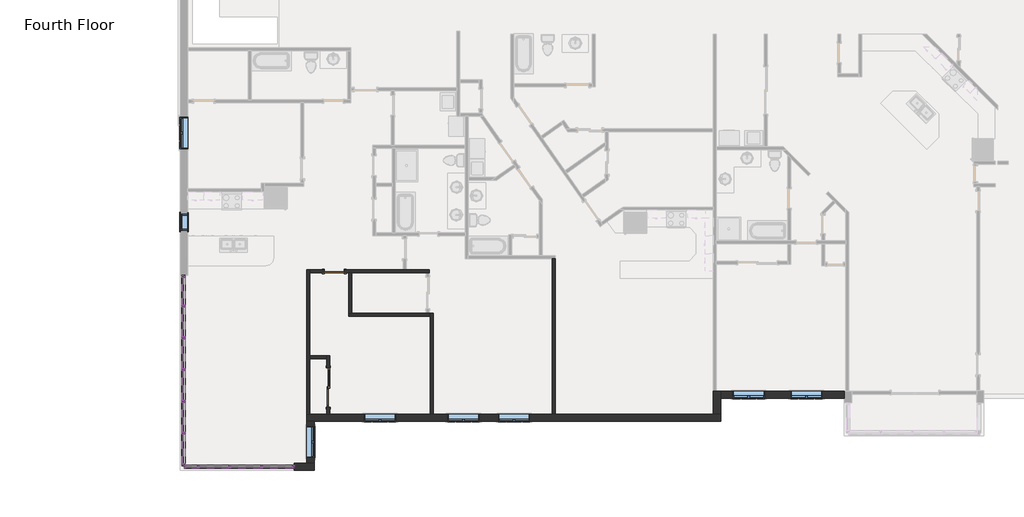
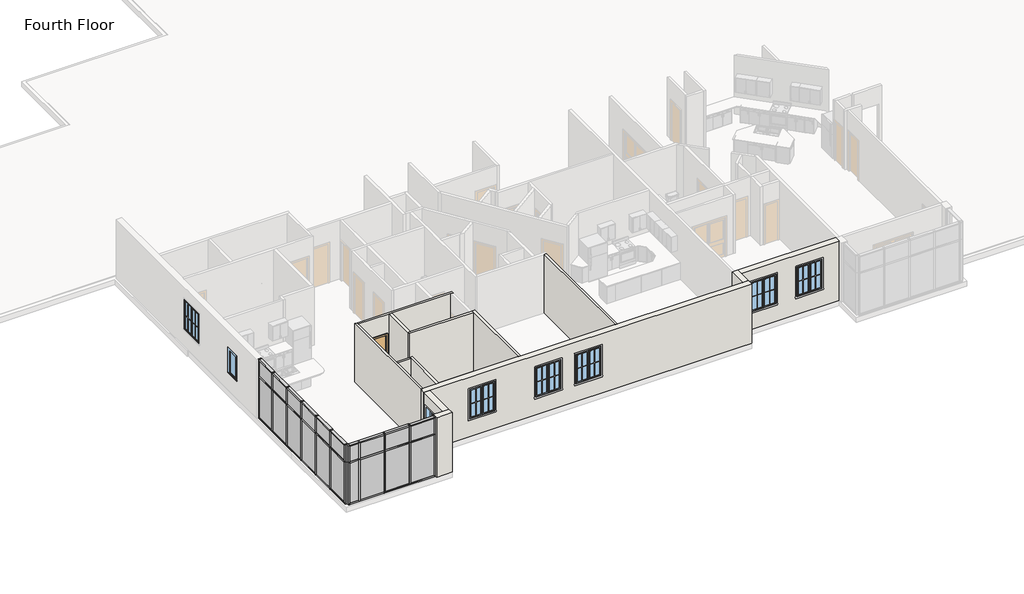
# One storey, part 1 of 17: 54 members, 20 plates, 13 walls, 8 windows, 2 doors.
"""IFC4 building model written with IfcOpenShell, lengths in millimetres."""

from ifc_helpers import new_model, si_unit, frame, origin, place, context, project, spatial, polyline, outline, extrude, faceted_brep, transform, mapped, element, save
from components import door_f2b275c1, door_2e7ec8be, rectangular_mullion_rectangular_mullion_1_c1bf3533, rectangular_mullion_rectangular_mullion_1_fa3625a1, rectangular_mullion_rectangular_mullion_1_a50b3cda, rectangular_mullion_rectangular_mullion_1_5cd4c5ac, rectangular_mullion_rectangular_mullion_1_7cbf0b94, rectangular_mullion_rectangular_mullion_1_1da01dff, rectangular_mullion_rectangular_mullion_1_6186cc23, rectangular_mullion_rectangular_mullion_1_049a2e78, rectangular_mullion_rectangular_mullion_1_fcad50a8, rectangular_mullion_rectangular_mullion_1_aa096312, system_panel_glazed_53e6f9fb, system_panel_glazed_0e039939, system_panel_glazed_cb820e14, system_panel_glazed_5b288161, system_panel_glazed_f20beefc, system_panel_glazed_097fd36c, window_b85827b5, window_33528cc2

model = new_model("IFC4")

# Units and contexts
model_context = context("Model", 3, world=origin())
ifc_project = project(units=[si_unit("LENGTHUNIT", "METRE", prefix="MILLI")], contexts=[model_context])

# Site, building, storey
site = spatial("IfcSite", under=ifc_project)
building = spatial("IfcBuilding", under=site)
storey = spatial("IfcBuildingStorey", under=building, Name="Fourth Floor", Elevation=9144.0)

# Doors
placement = place(None, origin())
door_shape = door_f2b275c1(model_context)
element("IfcDoor", 1, ObjectType="Single-Flush : 30\" x 80\"", at=placement, inside=storey, context=model_context, shape_type="MappedRepresentation", body=[
    mapped(door_shape, transform((12807.779723, -13829.1071807, 9144.0), x_axis=(1.0, 0.0, 0.0), y_axis=(0.0, 1.0, 0.0), z_axis=(0.0, 0.0, 1.0))),
])
door_2_shape = door_2e7ec8be(model_context)
element("IfcDoor", 2, ObjectType="Sliding-Closet : 60\" x 80\"", at=placement, inside=storey, context=model_context, shape_type="MappedRepresentation", body=[
    mapped(door_2_shape, transform((12448.2103704, -18291.1858961, 9144.0), x_axis=(0.0, -1.0, 0.0), y_axis=(1.0, 0.0, 0.0), z_axis=(0.0, 0.0, 1.0))),
])

# Members
rectangular_mullion_rectangular_mullion_1_shape = rectangular_mullion_rectangular_mullion_1_c1bf3533(model_context)
element("IfcMember", 3, ObjectType="Rectangular Mullion : Rectangular Mullion 1", at=placement, inside=storey, context=model_context, shape_type="MappedRepresentation", body=[
    mapped(rectangular_mullion_rectangular_mullion_1_shape, transform((7097.5509633, -21333.0996067, 12192.0), x_axis=(0.0, 0.0, 1.0), y_axis=(0.0, 1.0, 0.0), z_axis=(-1.0, 0.0, 0.0))),
])
rectangular_mullion_rectangular_mullion_1_2_shape = rectangular_mullion_rectangular_mullion_1_fa3625a1(model_context)
element("IfcMember", 4, ObjectType="Rectangular Mullion : Rectangular Mullion 1", at=placement, inside=storey, context=model_context, shape_type="MappedRepresentation", body=[
    mapped(rectangular_mullion_rectangular_mullion_1_2_shape, transform((10056.650963, -21333.0996067, 12192.0), x_axis=(0.0, 0.0, 1.0), y_axis=(0.0, 1.0, 0.0), z_axis=(-1.0, 0.0, 0.0))),
])
element("IfcMember", 5, ObjectType="Rectangular Mullion : Rectangular Mullion 1", at=placement, inside=storey, context=model_context, shape_type="MappedRepresentation", body=[
    mapped(rectangular_mullion_rectangular_mullion_1_2_shape, transform((8837.450963, -21333.0996067, 12192.0), x_axis=(0.0, 0.0, 1.0), y_axis=(0.0, 1.0, 0.0), z_axis=(-1.0, 0.0, 0.0))),
])
element("IfcMember", 6, ObjectType="Rectangular Mullion : Rectangular Mullion 1", at=placement, inside=storey, context=model_context, shape_type="MappedRepresentation", body=[
    mapped(rectangular_mullion_rectangular_mullion_1_2_shape, transform((7618.250963, -21333.0996067, 12192.0), x_axis=(0.0, 0.0, 1.0), y_axis=(0.0, 1.0, 0.0), z_axis=(-1.0, 0.0, 0.0))),
])
element("IfcMember", 7, ObjectType="Rectangular Mullion : Rectangular Mullion 1", at=placement, inside=storey, context=model_context, shape_type="MappedRepresentation", body=[
    mapped(rectangular_mullion_rectangular_mullion_1_2_shape, transform((7015.0009633, -20069.4496064, 12192.0), x_axis=(0.0, 0.0, 1.0), y_axis=(1.0, 0.0, 0.0), z_axis=(0.0, 1.0, 0.0))),
])
element("IfcMember", 8, ObjectType="Rectangular Mullion : Rectangular Mullion 1", at=placement, inside=storey, context=model_context, shape_type="MappedRepresentation", body=[
    mapped(rectangular_mullion_rectangular_mullion_1_2_shape, transform((7015.0009633, -18850.2496064, 12192.0), x_axis=(0.0, 0.0, 1.0), y_axis=(1.0, 0.0, 0.0), z_axis=(0.0, 1.0, 0.0))),
])
element("IfcMember", 9, ObjectType="Rectangular Mullion : Rectangular Mullion 1", at=placement, inside=storey, context=model_context, shape_type="MappedRepresentation", body=[
    mapped(rectangular_mullion_rectangular_mullion_1_2_shape, transform((7015.0009633, -17631.0496064, 12192.0), x_axis=(0.0, 0.0, 1.0), y_axis=(1.0, 0.0, 0.0), z_axis=(0.0, 1.0, 0.0))),
])
element("IfcMember", 10, ObjectType="Rectangular Mullion : Rectangular Mullion 1", at=placement, inside=storey, context=model_context, shape_type="MappedRepresentation", body=[
    mapped(rectangular_mullion_rectangular_mullion_1_2_shape, transform((7015.0009633, -16411.8496064, 12192.0), x_axis=(0.0, 0.0, 1.0), y_axis=(1.0, 0.0, 0.0), z_axis=(0.0, 1.0, 0.0))),
])
element("IfcMember", 11, ObjectType="Rectangular Mullion : Rectangular Mullion 1", at=placement, inside=storey, context=model_context, shape_type="MappedRepresentation", body=[
    mapped(rectangular_mullion_rectangular_mullion_1_2_shape, transform((7015.0009633, -15192.6496064, 12192.0), x_axis=(0.0, 0.0, 1.0), y_axis=(1.0, 0.0, 0.0), z_axis=(0.0, 1.0, 0.0))),
])
element("IfcMember", 12, ObjectType="Rectangular Mullion : Rectangular Mullion 1", at=placement, inside=storey, context=model_context, shape_type="MappedRepresentation", body=[
    mapped(rectangular_mullion_rectangular_mullion_1_2_shape, transform((11212.3509633, -21333.0996067, 9144.0), x_axis=(0.0, 0.0, -1.0), y_axis=(0.0, 1.0, 0.0), z_axis=(1.0, 0.0, 0.0))),
])
element("IfcMember", 13, ObjectType="Rectangular Mullion : Rectangular Mullion 1", at=placement, inside=storey, context=model_context, shape_type="MappedRepresentation", body=[
    mapped(rectangular_mullion_rectangular_mullion_1_2_shape, transform((9993.150963, -21333.0996067, 9144.0), x_axis=(0.0, 0.0, -1.0), y_axis=(0.0, 1.0, 0.0), z_axis=(1.0, 0.0, 0.0))),
])
element("IfcMember", 14, ObjectType="Rectangular Mullion : Rectangular Mullion 1", at=placement, inside=storey, context=model_context, shape_type="MappedRepresentation", body=[
    mapped(rectangular_mullion_rectangular_mullion_1_2_shape, transform((8773.950963, -21333.0996067, 9144.0), x_axis=(0.0, 0.0, -1.0), y_axis=(0.0, 1.0, 0.0), z_axis=(1.0, 0.0, 0.0))),
])
element("IfcMember", 15, ObjectType="Rectangular Mullion : Rectangular Mullion 1", at=placement, inside=storey, context=model_context, shape_type="MappedRepresentation", body=[
    mapped(rectangular_mullion_rectangular_mullion_1_2_shape, transform((7015.0009633, -21225.1496067, 9144.0), x_axis=(0.0, 0.0, -1.0), y_axis=(1.0, 0.0, 0.0), z_axis=(0.0, -1.0, 0.0))),
])
element("IfcMember", 16, ObjectType="Rectangular Mullion : Rectangular Mullion 1", at=placement, inside=storey, context=model_context, shape_type="MappedRepresentation", body=[
    mapped(rectangular_mullion_rectangular_mullion_1_2_shape, transform((7015.0009633, -20005.9496064, 9144.0), x_axis=(0.0, 0.0, -1.0), y_axis=(1.0, 0.0, 0.0), z_axis=(0.0, -1.0, 0.0))),
])
element("IfcMember", 17, ObjectType="Rectangular Mullion : Rectangular Mullion 1", at=placement, inside=storey, context=model_context, shape_type="MappedRepresentation", body=[
    mapped(rectangular_mullion_rectangular_mullion_1_2_shape, transform((7015.0009633, -18786.7496064, 9144.0), x_axis=(0.0, 0.0, -1.0), y_axis=(1.0, 0.0, 0.0), z_axis=(0.0, -1.0, 0.0))),
])
element("IfcMember", 18, ObjectType="Rectangular Mullion : Rectangular Mullion 1", at=placement, inside=storey, context=model_context, shape_type="MappedRepresentation", body=[
    mapped(rectangular_mullion_rectangular_mullion_1_2_shape, transform((7015.0009633, -17567.5496064, 9144.0), x_axis=(0.0, 0.0, -1.0), y_axis=(1.0, 0.0, 0.0), z_axis=(0.0, -1.0, 0.0))),
])
element("IfcMember", 19, ObjectType="Rectangular Mullion : Rectangular Mullion 1", at=placement, inside=storey, context=model_context, shape_type="MappedRepresentation", body=[
    mapped(rectangular_mullion_rectangular_mullion_1_2_shape, transform((7015.0009633, -16348.3496064, 9144.0), x_axis=(0.0, 0.0, -1.0), y_axis=(1.0, 0.0, 0.0), z_axis=(0.0, -1.0, 0.0))),
])
element("IfcMember", 20, ObjectType="Rectangular Mullion : Rectangular Mullion 1", at=placement, inside=storey, context=model_context, shape_type="MappedRepresentation", body=[
    mapped(rectangular_mullion_rectangular_mullion_1_shape, transform((7554.750963, -21333.0996067, 9144.0), x_axis=(0.0, 0.0, -1.0), y_axis=(0.0, 1.0, 0.0), z_axis=(1.0, 0.0, 0.0))),
])
rectangular_mullion_rectangular_mullion_1_3_shape = rectangular_mullion_rectangular_mullion_1_a50b3cda(model_context)
element("IfcMember", 21, ObjectType="Rectangular Mullion : Rectangular Mullion 1", at=placement, inside=storey, context=model_context, shape_type="MappedRepresentation", body=[
    mapped(rectangular_mullion_rectangular_mullion_1_3_shape, transform((7034.0509633, -21333.0996067, 9144.0), x_axis=(-1.0, 0.0, 0.0), y_axis=(0.0, 1.0, 0.0), z_axis=(0.0, 0.0, -1.0))),
])
element("IfcMember", 22, ObjectType="Rectangular Mullion : Rectangular Mullion 1", at=placement, inside=storey, context=model_context, shape_type="MappedRepresentation", body=[
    mapped(rectangular_mullion_rectangular_mullion_1_3_shape, transform((7015.0009633, -13981.3871067, 9144.0), x_axis=(0.0, 1.0, 0.0), y_axis=(1.0, 0.0, 0.0), z_axis=(0.0, 0.0, -1.0))),
])
rectangular_mullion_rectangular_mullion_1_4_shape = rectangular_mullion_rectangular_mullion_1_5cd4c5ac(model_context)
element("IfcMember", 23, ObjectType="Rectangular Mullion : Rectangular Mullion 1", at=placement, inside=storey, context=model_context, shape_type="MappedRepresentation", body=[
    mapped(rectangular_mullion_rectangular_mullion_1_4_shape, transform((7034.0509633, -21333.0996067, 11309.35), x_axis=(-1.0, 0.0, 0.0), y_axis=(0.0, 1.0, 0.0), z_axis=(0.0, 0.0, -1.0))),
])
element("IfcMember", 24, ObjectType="Rectangular Mullion : Rectangular Mullion 1", at=placement, inside=storey, context=model_context, shape_type="MappedRepresentation", body=[
    mapped(rectangular_mullion_rectangular_mullion_1_4_shape, transform((7015.0009633, -13981.3871067, 11309.35), x_axis=(0.0, 1.0, 0.0), y_axis=(1.0, 0.0, 0.0), z_axis=(0.0, 0.0, -1.0))),
])
element("IfcMember", 25, ObjectType="Rectangular Mullion : Rectangular Mullion 1", at=placement, inside=storey, context=model_context, shape_type="MappedRepresentation", body=[
    mapped(rectangular_mullion_rectangular_mullion_1_4_shape, transform((11275.8509633, -21333.0996067, 12192.0), x_axis=(1.0, 0.0, 0.0), y_axis=(0.0, 1.0, 0.0), z_axis=(0.0, 0.0, 1.0))),
])
element("IfcMember", 26, ObjectType="Rectangular Mullion : Rectangular Mullion 1", at=placement, inside=storey, context=model_context, shape_type="MappedRepresentation", body=[
    mapped(rectangular_mullion_rectangular_mullion_1_4_shape, transform((7015.0009633, -21288.6496067, 12192.0), x_axis=(0.0, -1.0, 0.0), y_axis=(1.0, 0.0, 0.0), z_axis=(0.0, 0.0, 1.0))),
])
element("IfcMember", 27, ObjectType="Rectangular Mullion : Rectangular Mullion 1", at=placement, inside=storey, context=model_context, shape_type="MappedRepresentation", body=[
    mapped(rectangular_mullion_rectangular_mullion_1_3_shape, transform((11275.8509633, -21333.0996067, 11309.35), x_axis=(1.0, 0.0, 0.0), y_axis=(0.0, 1.0, 0.0), z_axis=(0.0, 0.0, 1.0))),
])
element("IfcMember", 28, ObjectType="Rectangular Mullion : Rectangular Mullion 1", at=placement, inside=storey, context=model_context, shape_type="MappedRepresentation", body=[
    mapped(rectangular_mullion_rectangular_mullion_1_3_shape, transform((7015.0009633, -21288.6496067, 11309.35), x_axis=(0.0, -1.0, 0.0), y_axis=(1.0, 0.0, 0.0), z_axis=(0.0, 0.0, 1.0))),
])
rectangular_mullion_rectangular_mullion_1_5_shape = rectangular_mullion_rectangular_mullion_1_7cbf0b94(model_context)
element("IfcMember", 29, ObjectType="Rectangular Mullion : Rectangular Mullion 1", at=placement, inside=storey, context=model_context, shape_type="MappedRepresentation", body=[
    mapped(rectangular_mullion_rectangular_mullion_1_5_shape, transform((10056.650963, -21333.0996067, 11309.35), x_axis=(0.0, 0.0, 1.0), y_axis=(0.0, 1.0, 0.0), z_axis=(-1.0, 0.0, 0.0))),
])
element("IfcMember", 30, ObjectType="Rectangular Mullion : Rectangular Mullion 1", at=placement, inside=storey, context=model_context, shape_type="MappedRepresentation", body=[
    mapped(rectangular_mullion_rectangular_mullion_1_5_shape, transform((8837.450963, -21333.0996067, 11309.35), x_axis=(0.0, 0.0, 1.0), y_axis=(0.0, 1.0, 0.0), z_axis=(-1.0, 0.0, 0.0))),
])
element("IfcMember", 31, ObjectType="Rectangular Mullion : Rectangular Mullion 1", at=placement, inside=storey, context=model_context, shape_type="MappedRepresentation", body=[
    mapped(rectangular_mullion_rectangular_mullion_1_5_shape, transform((7618.250963, -21333.0996067, 11309.35), x_axis=(0.0, 0.0, 1.0), y_axis=(0.0, 1.0, 0.0), z_axis=(-1.0, 0.0, 0.0))),
])
element("IfcMember", 32, ObjectType="Rectangular Mullion : Rectangular Mullion 1", at=placement, inside=storey, context=model_context, shape_type="MappedRepresentation", body=[
    mapped(rectangular_mullion_rectangular_mullion_1_5_shape, transform((7015.0009633, -20069.4496064, 11309.35), x_axis=(0.0, 0.0, 1.0), y_axis=(1.0, 0.0, 0.0), z_axis=(0.0, 1.0, 0.0))),
])
element("IfcMember", 33, ObjectType="Rectangular Mullion : Rectangular Mullion 1", at=placement, inside=storey, context=model_context, shape_type="MappedRepresentation", body=[
    mapped(rectangular_mullion_rectangular_mullion_1_5_shape, transform((7015.0009633, -18850.2496064, 11309.35), x_axis=(0.0, 0.0, 1.0), y_axis=(1.0, 0.0, 0.0), z_axis=(0.0, 1.0, 0.0))),
])
element("IfcMember", 34, ObjectType="Rectangular Mullion : Rectangular Mullion 1", at=placement, inside=storey, context=model_context, shape_type="MappedRepresentation", body=[
    mapped(rectangular_mullion_rectangular_mullion_1_5_shape, transform((7015.0009633, -17631.0496064, 11309.35), x_axis=(0.0, 0.0, 1.0), y_axis=(1.0, 0.0, 0.0), z_axis=(0.0, 1.0, 0.0))),
])
element("IfcMember", 35, ObjectType="Rectangular Mullion : Rectangular Mullion 1", at=placement, inside=storey, context=model_context, shape_type="MappedRepresentation", body=[
    mapped(rectangular_mullion_rectangular_mullion_1_5_shape, transform((7015.0009633, -16411.8496064, 11309.35), x_axis=(0.0, 0.0, 1.0), y_axis=(1.0, 0.0, 0.0), z_axis=(0.0, 1.0, 0.0))),
])
element("IfcMember", 36, ObjectType="Rectangular Mullion : Rectangular Mullion 1", at=placement, inside=storey, context=model_context, shape_type="MappedRepresentation", body=[
    mapped(rectangular_mullion_rectangular_mullion_1_5_shape, transform((7015.0009633, -15192.6496064, 11309.35), x_axis=(0.0, 0.0, 1.0), y_axis=(1.0, 0.0, 0.0), z_axis=(0.0, 1.0, 0.0))),
])
rectangular_mullion_rectangular_mullion_1_6_shape = rectangular_mullion_rectangular_mullion_1_1da01dff(model_context)
element("IfcMember", 37, ObjectType="Rectangular Mullion : Rectangular Mullion 1", at=placement, inside=storey, context=model_context, shape_type="MappedRepresentation", body=[
    mapped(rectangular_mullion_rectangular_mullion_1_6_shape, transform((7097.5509633, -21333.0996067, 11309.35), x_axis=(0.0, 0.0, 1.0), y_axis=(0.0, 1.0, 0.0), z_axis=(-1.0, 0.0, 0.0))),
])
rectangular_mullion_rectangular_mullion_1_7_shape = rectangular_mullion_rectangular_mullion_1_6186cc23(model_context)
element("IfcMember", 38, ObjectType="Rectangular Mullion : Rectangular Mullion 1", at=placement, inside=storey, context=model_context, shape_type="MappedRepresentation", body=[
    mapped(rectangular_mullion_rectangular_mullion_1_7_shape, transform((10024.900963, -21333.0996067, 9144.0), x_axis=(-1.0, 0.0, 0.0), y_axis=(0.0, 1.0, 0.0), z_axis=(0.0, 0.0, -1.0))),
])
element("IfcMember", 39, ObjectType="Rectangular Mullion : Rectangular Mullion 1", at=placement, inside=storey, context=model_context, shape_type="MappedRepresentation", body=[
    mapped(rectangular_mullion_rectangular_mullion_1_7_shape, transform((8805.700963, -21333.0996067, 9144.0), x_axis=(-1.0, 0.0, 0.0), y_axis=(0.0, 1.0, 0.0), z_axis=(0.0, 0.0, -1.0))),
])
element("IfcMember", 40, ObjectType="Rectangular Mullion : Rectangular Mullion 1", at=placement, inside=storey, context=model_context, shape_type="MappedRepresentation", body=[
    mapped(rectangular_mullion_rectangular_mullion_1_7_shape, transform((7586.500963, -21333.0996067, 9144.0), x_axis=(-1.0, 0.0, 0.0), y_axis=(0.0, 1.0, 0.0), z_axis=(0.0, 0.0, -1.0))),
])
element("IfcMember", 41, ObjectType="Rectangular Mullion : Rectangular Mullion 1", at=placement, inside=storey, context=model_context, shape_type="MappedRepresentation", body=[
    mapped(rectangular_mullion_rectangular_mullion_1_7_shape, transform((7015.0009633, -20037.6996064, 9144.0), x_axis=(0.0, 1.0, 0.0), y_axis=(1.0, 0.0, 0.0), z_axis=(0.0, 0.0, -1.0))),
])
element("IfcMember", 42, ObjectType="Rectangular Mullion : Rectangular Mullion 1", at=placement, inside=storey, context=model_context, shape_type="MappedRepresentation", body=[
    mapped(rectangular_mullion_rectangular_mullion_1_7_shape, transform((7015.0009633, -18818.4996064, 9144.0), x_axis=(0.0, 1.0, 0.0), y_axis=(1.0, 0.0, 0.0), z_axis=(0.0, 0.0, -1.0))),
])
element("IfcMember", 43, ObjectType="Rectangular Mullion : Rectangular Mullion 1", at=placement, inside=storey, context=model_context, shape_type="MappedRepresentation", body=[
    mapped(rectangular_mullion_rectangular_mullion_1_7_shape, transform((7015.0009633, -17599.2996064, 9144.0), x_axis=(0.0, 1.0, 0.0), y_axis=(1.0, 0.0, 0.0), z_axis=(0.0, 0.0, -1.0))),
])
element("IfcMember", 44, ObjectType="Rectangular Mullion : Rectangular Mullion 1", at=placement, inside=storey, context=model_context, shape_type="MappedRepresentation", body=[
    mapped(rectangular_mullion_rectangular_mullion_1_7_shape, transform((7015.0009633, -16380.0996064, 9144.0), x_axis=(0.0, 1.0, 0.0), y_axis=(1.0, 0.0, 0.0), z_axis=(0.0, 0.0, -1.0))),
])
element("IfcMember", 45, ObjectType="Rectangular Mullion : Rectangular Mullion 1", at=placement, inside=storey, context=model_context, shape_type="MappedRepresentation", body=[
    mapped(rectangular_mullion_rectangular_mullion_1_7_shape, transform((7015.0009633, -15160.8996064, 9144.0), x_axis=(0.0, 1.0, 0.0), y_axis=(1.0, 0.0, 0.0), z_axis=(0.0, 0.0, -1.0))),
])
rectangular_mullion_rectangular_mullion_1_8_shape = rectangular_mullion_rectangular_mullion_1_049a2e78(model_context)
element("IfcMember", 46, ObjectType="Rectangular Mullion : Rectangular Mullion 1", at=placement, inside=storey, context=model_context, shape_type="MappedRepresentation", body=[
    mapped(rectangular_mullion_rectangular_mullion_1_8_shape, transform((10024.900963, -21333.0996067, 11309.35), x_axis=(-1.0, 0.0, 0.0), y_axis=(0.0, 1.0, 0.0), z_axis=(0.0, 0.0, -1.0))),
])
element("IfcMember", 47, ObjectType="Rectangular Mullion : Rectangular Mullion 1", at=placement, inside=storey, context=model_context, shape_type="MappedRepresentation", body=[
    mapped(rectangular_mullion_rectangular_mullion_1_8_shape, transform((8805.700963, -21333.0996067, 11309.35), x_axis=(-1.0, 0.0, 0.0), y_axis=(0.0, 1.0, 0.0), z_axis=(0.0, 0.0, -1.0))),
])
element("IfcMember", 48, ObjectType="Rectangular Mullion : Rectangular Mullion 1", at=placement, inside=storey, context=model_context, shape_type="MappedRepresentation", body=[
    mapped(rectangular_mullion_rectangular_mullion_1_8_shape, transform((7586.500963, -21333.0996067, 11309.35), x_axis=(-1.0, 0.0, 0.0), y_axis=(0.0, 1.0, 0.0), z_axis=(0.0, 0.0, -1.0))),
])
element("IfcMember", 49, ObjectType="Rectangular Mullion : Rectangular Mullion 1", at=placement, inside=storey, context=model_context, shape_type="MappedRepresentation", body=[
    mapped(rectangular_mullion_rectangular_mullion_1_8_shape, transform((7015.0009633, -20037.6996064, 11309.35), x_axis=(0.0, 1.0, 0.0), y_axis=(1.0, 0.0, 0.0), z_axis=(0.0, 0.0, -1.0))),
])
element("IfcMember", 50, ObjectType="Rectangular Mullion : Rectangular Mullion 1", at=placement, inside=storey, context=model_context, shape_type="MappedRepresentation", body=[
    mapped(rectangular_mullion_rectangular_mullion_1_8_shape, transform((7015.0009633, -18818.4996064, 11309.35), x_axis=(0.0, 1.0, 0.0), y_axis=(1.0, 0.0, 0.0), z_axis=(0.0, 0.0, -1.0))),
])
element("IfcMember", 51, ObjectType="Rectangular Mullion : Rectangular Mullion 1", at=placement, inside=storey, context=model_context, shape_type="MappedRepresentation", body=[
    mapped(rectangular_mullion_rectangular_mullion_1_8_shape, transform((7015.0009633, -17599.2996064, 11309.35), x_axis=(0.0, 1.0, 0.0), y_axis=(1.0, 0.0, 0.0), z_axis=(0.0, 0.0, -1.0))),
])
element("IfcMember", 52, ObjectType="Rectangular Mullion : Rectangular Mullion 1", at=placement, inside=storey, context=model_context, shape_type="MappedRepresentation", body=[
    mapped(rectangular_mullion_rectangular_mullion_1_8_shape, transform((7015.0009633, -16380.0996064, 11309.35), x_axis=(0.0, 1.0, 0.0), y_axis=(1.0, 0.0, 0.0), z_axis=(0.0, 0.0, -1.0))),
])
element("IfcMember", 53, ObjectType="Rectangular Mullion : Rectangular Mullion 1", at=placement, inside=storey, context=model_context, shape_type="MappedRepresentation", body=[
    mapped(rectangular_mullion_rectangular_mullion_1_8_shape, transform((7015.0009633, -15160.8996064, 11309.35), x_axis=(0.0, 1.0, 0.0), y_axis=(1.0, 0.0, 0.0), z_axis=(0.0, 0.0, -1.0))),
])
rectangular_mullion_rectangular_mullion_1_9_shape = rectangular_mullion_rectangular_mullion_1_fcad50a8(model_context)
element("IfcMember", 54, ObjectType="Rectangular Mullion : Rectangular Mullion 1", at=placement, inside=storey, context=model_context, shape_type="MappedRepresentation", body=[
    mapped(rectangular_mullion_rectangular_mullion_1_9_shape, transform((7015.0009633, -14044.8871067, 12192.0), x_axis=(0.0, 0.0, 1.0), y_axis=(1.0, 0.0, 0.0), z_axis=(0.0, 1.0, 0.0))),
])
element("IfcMember", 55, ObjectType="Rectangular Mullion : Rectangular Mullion 1", at=placement, inside=storey, context=model_context, shape_type="MappedRepresentation", body=[
    mapped(rectangular_mullion_rectangular_mullion_1_9_shape, transform((7015.0009633, -15129.1496064, 9144.0), x_axis=(0.0, 0.0, -1.0), y_axis=(1.0, 0.0, 0.0), z_axis=(0.0, -1.0, 0.0))),
])
rectangular_mullion_rectangular_mullion_1_10_shape = rectangular_mullion_rectangular_mullion_1_aa096312(model_context)
element("IfcMember", 56, ObjectType="Rectangular Mullion : Rectangular Mullion 1", at=placement, inside=storey, context=model_context, shape_type="MappedRepresentation", body=[
    mapped(rectangular_mullion_rectangular_mullion_1_10_shape, transform((7015.0009633, -14044.8871067, 11309.35), x_axis=(0.0, 0.0, 1.0), y_axis=(1.0, 0.0, 0.0), z_axis=(0.0, 1.0, 0.0))),
])

# Plates
system_panel_glazed_shape = system_panel_glazed_53e6f9fb(model_context)
element("IfcPlate", 57, ObjectType="System Panel : Glazed", at=placement, inside=storey, context=model_context, shape_type="MappedRepresentation", body=[
    mapped(system_panel_glazed_shape, transform((10634.5009632, -21333.0996067, 9207.5), x_axis=(-1.0, 0.0, 0.0), y_axis=(0.0, -1.0, 0.0), z_axis=(0.0, 0.0, 1.0))),
])
element("IfcPlate", 58, ObjectType="System Panel : Glazed", at=placement, inside=storey, context=model_context, shape_type="MappedRepresentation", body=[
    mapped(system_panel_glazed_shape, transform((7015.0009633, -20647.2996066, 9207.5), x_axis=(0.0, 1.0, 0.0), y_axis=(-1.0, 0.0, 0.0), z_axis=(0.0, 0.0, 1.0))),
])
element("IfcPlate", 59, ObjectType="System Panel : Glazed", at=placement, inside=storey, context=model_context, shape_type="MappedRepresentation", body=[
    mapped(system_panel_glazed_shape, transform((9415.300963, -21333.0996067, 9207.5), x_axis=(-1.0, 0.0, 0.0), y_axis=(0.0, -1.0, 0.0), z_axis=(0.0, 0.0, 1.0))),
])
element("IfcPlate", 60, ObjectType="System Panel : Glazed", at=placement, inside=storey, context=model_context, shape_type="MappedRepresentation", body=[
    mapped(system_panel_glazed_shape, transform((8196.100963, -21333.0996067, 9207.5), x_axis=(-1.0, 0.0, 0.0), y_axis=(0.0, -1.0, 0.0), z_axis=(0.0, 0.0, 1.0))),
])
element("IfcPlate", 61, ObjectType="System Panel : Glazed", at=placement, inside=storey, context=model_context, shape_type="MappedRepresentation", body=[
    mapped(system_panel_glazed_shape, transform((7015.0009633, -19428.0996064, 9207.5), x_axis=(0.0, 1.0, 0.0), y_axis=(-1.0, 0.0, 0.0), z_axis=(0.0, 0.0, 1.0))),
])
element("IfcPlate", 62, ObjectType="System Panel : Glazed", at=placement, inside=storey, context=model_context, shape_type="MappedRepresentation", body=[
    mapped(system_panel_glazed_shape, transform((7015.0009633, -18208.8996064, 9207.5), x_axis=(0.0, 1.0, 0.0), y_axis=(-1.0, 0.0, 0.0), z_axis=(0.0, 0.0, 1.0))),
])
element("IfcPlate", 63, ObjectType="System Panel : Glazed", at=placement, inside=storey, context=model_context, shape_type="MappedRepresentation", body=[
    mapped(system_panel_glazed_shape, transform((7015.0009633, -16989.6996064, 9207.5), x_axis=(0.0, 1.0, 0.0), y_axis=(-1.0, 0.0, 0.0), z_axis=(0.0, 0.0, 1.0))),
])
element("IfcPlate", 64, ObjectType="System Panel : Glazed", at=placement, inside=storey, context=model_context, shape_type="MappedRepresentation", body=[
    mapped(system_panel_glazed_shape, transform((7015.0009633, -15770.4996064, 9207.5), x_axis=(0.0, 1.0, 0.0), y_axis=(-1.0, 0.0, 0.0), z_axis=(0.0, 0.0, 1.0))),
])
system_panel_glazed_2_shape = system_panel_glazed_0e039939(model_context)
element("IfcPlate", 65, ObjectType="System Panel : Glazed", at=placement, inside=storey, context=model_context, shape_type="MappedRepresentation", body=[
    mapped(system_panel_glazed_2_shape, transform((7326.1509632, -21333.0996067, 9207.5), x_axis=(-1.0, 0.0, 0.0), y_axis=(0.0, -1.0, 0.0), z_axis=(0.0, 0.0, 1.0))),
])
system_panel_glazed_3_shape = system_panel_glazed_cb820e14(model_context)
element("IfcPlate", 66, ObjectType="System Panel : Glazed", at=placement, inside=storey, context=model_context, shape_type="MappedRepresentation", body=[
    mapped(system_panel_glazed_3_shape, transform((10634.5009632, -21333.0996067, 11341.1), x_axis=(-1.0, 0.0, 0.0), y_axis=(0.0, -1.0, 0.0), z_axis=(0.0, 0.0, 1.0))),
])
element("IfcPlate", 67, ObjectType="System Panel : Glazed", at=placement, inside=storey, context=model_context, shape_type="MappedRepresentation", body=[
    mapped(system_panel_glazed_3_shape, transform((9415.300963, -21333.0996067, 11341.1), x_axis=(-1.0, 0.0, 0.0), y_axis=(0.0, -1.0, 0.0), z_axis=(0.0, 0.0, 1.0))),
])
element("IfcPlate", 68, ObjectType="System Panel : Glazed", at=placement, inside=storey, context=model_context, shape_type="MappedRepresentation", body=[
    mapped(system_panel_glazed_3_shape, transform((8196.100963, -21333.0996067, 11341.1), x_axis=(-1.0, 0.0, 0.0), y_axis=(0.0, -1.0, 0.0), z_axis=(0.0, 0.0, 1.0))),
])
element("IfcPlate", 69, ObjectType="System Panel : Glazed", at=placement, inside=storey, context=model_context, shape_type="MappedRepresentation", body=[
    mapped(system_panel_glazed_3_shape, transform((7015.0009633, -20647.2996066, 11341.1), x_axis=(0.0, 1.0, 0.0), y_axis=(-1.0, 0.0, 0.0), z_axis=(0.0, 0.0, 1.0))),
])
element("IfcPlate", 70, ObjectType="System Panel : Glazed", at=placement, inside=storey, context=model_context, shape_type="MappedRepresentation", body=[
    mapped(system_panel_glazed_3_shape, transform((7015.0009633, -19428.0996064, 11341.1), x_axis=(0.0, 1.0, 0.0), y_axis=(-1.0, 0.0, 0.0), z_axis=(0.0, 0.0, 1.0))),
])
element("IfcPlate", 71, ObjectType="System Panel : Glazed", at=placement, inside=storey, context=model_context, shape_type="MappedRepresentation", body=[
    mapped(system_panel_glazed_3_shape, transform((7015.0009633, -18208.8996064, 11341.1), x_axis=(0.0, 1.0, 0.0), y_axis=(-1.0, 0.0, 0.0), z_axis=(0.0, 0.0, 1.0))),
])
element("IfcPlate", 72, ObjectType="System Panel : Glazed", at=placement, inside=storey, context=model_context, shape_type="MappedRepresentation", body=[
    mapped(system_panel_glazed_3_shape, transform((7015.0009633, -16989.6996064, 11341.1), x_axis=(0.0, 1.0, 0.0), y_axis=(-1.0, 0.0, 0.0), z_axis=(0.0, 0.0, 1.0))),
])
element("IfcPlate", 73, ObjectType="System Panel : Glazed", at=placement, inside=storey, context=model_context, shape_type="MappedRepresentation", body=[
    mapped(system_panel_glazed_3_shape, transform((7015.0009633, -15770.4996064, 11341.1), x_axis=(0.0, 1.0, 0.0), y_axis=(-1.0, 0.0, 0.0), z_axis=(0.0, 0.0, 1.0))),
])
system_panel_glazed_4_shape = system_panel_glazed_5b288161(model_context)
element("IfcPlate", 74, ObjectType="System Panel : Glazed", at=placement, inside=storey, context=model_context, shape_type="MappedRepresentation", body=[
    mapped(system_panel_glazed_4_shape, transform((7326.1509632, -21333.0996067, 11341.1), x_axis=(-1.0, 0.0, 0.0), y_axis=(0.0, -1.0, 0.0), z_axis=(0.0, 0.0, 1.0))),
])
system_panel_glazed_5_shape = system_panel_glazed_f20beefc(model_context)
element("IfcPlate", 75, ObjectType="System Panel : Glazed", at=placement, inside=storey, context=model_context, shape_type="MappedRepresentation", body=[
    mapped(system_panel_glazed_5_shape, transform((7015.0009633, -14587.0183566, 9207.5), x_axis=(0.0, 1.0, 0.0), y_axis=(-1.0, 0.0, 0.0), z_axis=(0.0, 0.0, 1.0))),
])
system_panel_glazed_6_shape = system_panel_glazed_097fd36c(model_context)
element("IfcPlate", 76, ObjectType="System Panel : Glazed", at=placement, inside=storey, context=model_context, shape_type="MappedRepresentation", body=[
    mapped(system_panel_glazed_6_shape, transform((7015.0009633, -14587.0183566, 11341.1), x_axis=(0.0, 1.0, 0.0), y_axis=(-1.0, 0.0, 0.0), z_axis=(0.0, 0.0, 1.0))),
])

# Walls
element("IfcWall", 77, ObjectType="Exterior - Brick on Wood Stud", at=placement, inside=storey, context=model_context, shape_type="Brep", body=[
    faceted_brep([(12033.0884633, -21191.8121067, 9144.0), (11750.5134633, -21191.8121067, 9144.0), (11275.8509633, -21191.8121067, 9144.0), (11275.8509633, -21191.8121067, 12192.0), (11750.5134633, -21191.8121067, 12192.0), (12033.0884633, -21191.8121067, 12192.0), (12033.0884633, -21474.3871067, 9144.0), (12033.0884633, -21474.3871067, 12192.0), (11275.8509633, -21474.3871067, 12192.0), (11275.8509633, -21474.3871067, 9144.0)], [[[0, 1, 2, 3, 4, 5]], [[6, 7, 8, 9]], [[2, 1, 0, 6, 9]], [[3, 2, 9, 8]], [[5, 4, 3, 8, 7]], [[0, 5, 7, 6]]]),
])
element("IfcWall", 78, ObjectType="Exterior - Brick on Wood Stud", at=placement, inside=storey, context=model_context, shape_type="Brep", body=[
    faceted_brep([(27656.3115862, -19313.2865506, 9144.0), (27373.7365862, -19313.2865506, 9144.0), (21299.9615862, -19313.2865506, 9144.0), (21185.6615862, -19313.2865506, 9144.0), (16611.410372, -19313.2865506, 9144.0), (16497.110372, -19313.2865506, 9144.0), (12632.3603704, -19313.2865506, 9144.0), (12518.0603704, -19313.2865506, 9144.0), (11864.8134633, -19313.2865506, 9144.0), (11750.5134633, -19313.2865506, 9144.0), (11750.5134633, -19313.2865506, 12192.0), (11864.8134633, -19313.2865506, 12192.0), (12518.0603704, -19313.2865506, 12192.0), (12632.3603704, -19313.2865506, 12192.0), (16497.110372, -19313.2865506, 12192.0), (16611.410372, -19313.2865506, 12192.0), (21185.6615862, -19313.2865506, 12192.0), (21299.9615862, -19313.2865506, 12192.0), (27373.7365862, -19313.2865506, 12192.0), (27656.3115862, -19313.2865506, 12192.0), (19109.2115862, -19313.2865506, 11582.4), (19109.2115862, -19313.2865506, 10058.4), (20328.4115862, -19313.2865506, 10058.4), (20328.4115862, -19313.2865506, 11582.4), (13955.1353712, -19313.2865506, 11582.4), (13955.1353712, -19313.2865506, 10058.4), (15174.3353712, -19313.2865506, 10058.4), (15174.3353712, -19313.2865506, 11582.4), (17163.860372, -19313.2865506, 11582.4), (17163.860372, -19313.2865506, 10058.4), (18383.060372, -19313.2865506, 10058.4), (18383.060372, -19313.2865506, 11582.4), (27656.3115862, -19595.8615506, 9144.0), (27656.3115862, -19595.8615506, 12192.0), (12033.0884633, -19595.8615506, 12192.0), (11750.5134633, -19595.8615506, 12192.0), (11750.5134633, -19595.8615506, 9144.0), (12033.0884633, -19595.8615506, 9144.0), (19109.2115862, -19595.8615506, 11582.4), (20328.4115862, -19595.8615506, 11582.4), (20328.4115862, -19595.8615506, 10058.4), (19109.2115862, -19595.8615506, 10058.4), (13955.1353712, -19595.8615506, 11582.4), (15174.3353712, -19595.8615506, 11582.4), (15174.3353712, -19595.8615506, 10058.4), (13955.1353712, -19595.8615506, 10058.4), (17163.860372, -19595.8615506, 11582.4), (18383.060372, -19595.8615506, 11582.4), (18383.060372, -19595.8615506, 10058.4), (17163.860372, -19595.8615506, 10058.4)], [[[0, 1, 2, 3, 4, 5, 6, 7, 8, 9, 10, 11, 12, 13, 14, 15, 16, 17, 18, 19], [20, 21, 22, 23], [24, 25, 26, 27], [28, 29, 30, 31]], [[32, 33, 34, 35, 36, 37], [38, 39, 40, 41], [42, 43, 44, 45], [46, 47, 48, 49]], [[21, 20, 38, 41]], [[22, 21, 41, 40]], [[23, 22, 40, 39]], [[20, 23, 39, 38]], [[25, 24, 42, 45]], [[26, 25, 45, 44]], [[27, 26, 44, 43]], [[24, 27, 43, 42]], [[29, 28, 46, 49]], [[30, 29, 49, 48]], [[31, 30, 48, 47]], [[28, 31, 47, 46]], [[9, 8, 7, 6, 5, 4, 3, 2, 1, 0, 32, 37, 36]], [[19, 18, 17, 16, 15, 14, 13, 12, 11, 10, 35, 34, 33]], [[0, 19, 33, 32]], [[10, 9, 36, 35]]]),
])
element("IfcWall", 79, ObjectType="Exterior - Brick on Wood Stud", at=placement, inside=storey, context=model_context, shape_type="Brep", body=[
    faceted_brep([(27656.3115862, -19313.2865506, 9144.0), (27656.3115862, -18708.8441587, 9144.0), (27656.3115862, -18426.2691587, 9144.0), (27656.3115862, -18426.2691587, 12192.0), (27656.3115862, -18708.8441587, 12192.0), (27656.3115862, -19313.2865506, 12192.0), (27373.7365862, -19313.2865506, 9144.0), (27373.7365862, -19313.2865506, 12192.0), (27373.7365862, -18426.2691587, 12192.0), (27373.7365862, -18426.2691587, 9144.0), (27488.0365862, -18426.2691587, 9144.0), (27488.0365862, -18426.2691587, 12192.0)], [[[0, 1, 2, 3, 4, 5]], [[6, 7, 8, 9]], [[2, 1, 0, 6, 9, 10]], [[5, 4, 3, 11, 8, 7]], [[3, 2, 10, 9, 8, 11]], [[0, 5, 7, 6]]]),
])
element("IfcWall", 80, ObjectType="Exterior - Brick on Wood Stud", at=placement, inside=storey, context=model_context, shape_type="SweptSolid", body=[
    extrude(outline(polyline([(-21191.8121067, 9144.0), (-21191.8121067, 12192.0), (-19595.8615506, 12192.0), (-19595.8615506, 9144.0), (-21191.8121067, 9144.0)]), holes=[polyline([(-20990.7368287, 11582.4), (-20990.7368287, 10058.4), (-19771.5368287, 10058.4), (-19771.5368287, 11582.4), (-20990.7368287, 11582.4)])]), frame((11750.5134633, 0.0, 0.0), z_axis=(1.0, 0.0, 0.0), x_axis=(0.0, 1.0, 0.0)), (0.0, 0.0, 1.0), 282.575),
])
element("IfcWall", 81, ObjectType="Exterior - Brick on Wood Stud", at=placement, inside=storey, context=model_context, shape_type="SweptSolid", body=[
    extrude(outline(polyline([(9144.0, 27656.3115862), (9144.0, 32412.3745389), (12192.0, 32412.3745389), (12192.0, 27656.3115862), (9144.0, 27656.3115862)]), holes=[polyline([(11582.4, 28124.6240862), (11582.4, 29343.8240862), (10058.4, 29343.8240862), (10058.4, 28124.6240862), (11582.4, 28124.6240862)]), polyline([(11582.4, 30343.8620389), (11582.4, 31563.0620389), (10058.4, 31563.0620389), (10058.4, 30343.8620389), (11582.4, 30343.8620389)])]), frame((0.0, -18708.8441587, 0.0), z_axis=(0.0, 1.0, 0.0), x_axis=(0.0, 0.0, 1.0)), (0.0, 0.0, 1.0), 282.575),
])
element("IfcWall", 82, ObjectType="Interior - 4 1/2\" Partition", at=placement, inside=storey, context=model_context, shape_type="SweptSolid", body=[
    extrude(outline(polyline([(21185.6615862, -19313.2865506), (21185.6615862, -13350.4704597), (21299.9615862, -13350.4704597), (21299.9615862, -19313.2865506), (21185.6615862, -19313.2865506)])), frame((0.0, 0.0, 9144.0), z_axis=(0.0, 0.0, 1.0), x_axis=(1.0, 0.0, 0.0)), (0.0, 0.0, 1.0), 3048.0),
])
element("IfcWall", 83, ObjectType="Interior - 4 1/2\" Partition", at=placement, inside=storey, context=model_context, shape_type="Brep", body=[
    faceted_brep([(16611.410372, -19313.2865506, 9144.0), (16611.410372, -15440.4282946, 9144.0), (16611.410372, -15440.4282946, 12192.0), (16611.410372, -19313.2865506, 12192.0), (16497.110372, -19313.2865506, 9144.0), (16497.110372, -19313.2865506, 12192.0), (16497.110372, -15554.7282946, 12192.0), (16497.110372, -15440.4282946, 12192.0), (16497.110372, -15440.4282946, 9144.0), (16497.110372, -15554.7282946, 9144.0)], [[[0, 1, 2, 3]], [[4, 5, 6, 7, 8, 9]], [[1, 0, 4, 9, 8]], [[3, 2, 7, 6, 5]], [[2, 1, 8, 7]], [[0, 3, 5, 4]]]),
])
element("IfcWall", 84, ObjectType="Interior - 4 1/2\" Partition", at=placement, inside=storey, context=model_context, shape_type="Brep", body=[
    faceted_brep([(16497.110372, -15440.4282946, 9144.0), (16459.010372, -15440.4282946, 9144.0), (16344.710372, -15440.4282946, 9144.0), (13474.529723, -15440.4282946, 9144.0), (13360.229723, -15440.4282946, 9144.0), (13360.229723, -15440.4282946, 12192.0), (13474.529723, -15440.4282946, 12192.0), (16344.710372, -15440.4282946, 12192.0), (16459.010372, -15440.4282946, 12192.0), (16497.110372, -15440.4282946, 12192.0), (16497.110372, -15554.7282946, 9144.0), (16497.110372, -15554.7282946, 12192.0), (13360.229723, -15554.7282946, 12192.0), (13360.229723, -15554.7282946, 9144.0)], [[[0, 1, 2, 3, 4, 5, 6, 7, 8, 9]], [[10, 11, 12, 13]], [[4, 3, 2, 1, 0, 10, 13]], [[9, 8, 7, 6, 5, 12, 11]], [[5, 4, 13, 12]], [[0, 9, 11, 10]]]),
])
element("IfcWall", 85, ObjectType="Interior - 4 1/2\" Partition", at=placement, inside=storey, context=model_context, shape_type="SweptSolid", body=[
    extrude(outline(polyline([(13474.529723, -13886.2571807), (13474.529723, -15440.4282946), (13360.229723, -15440.4282946), (13360.229723, -13886.2571807), (13474.529723, -13886.2571807)])), frame((0.0, 0.0, 9144.0), z_axis=(0.0, 0.0, 1.0), x_axis=(1.0, 0.0, 0.0)), (0.0, 0.0, 1.0), 3048.0),
])
element("IfcWall", 86, ObjectType="Interior - 4 1/2\" Partition", at=placement, inside=storey, context=model_context, shape_type="Brep", body=[
    faceted_brep([(11864.8134633, -19313.2865506, 9144.0), (11864.8134633, -17184.9477416, 9144.0), (11864.8134633, -17070.6477416, 9144.0), (11864.8134633, -13886.2571807, 9144.0), (11864.8134633, -13771.9571807, 9144.0), (11864.8134633, -13771.9571807, 12192.0), (11864.8134633, -13886.2571807, 12192.0), (11864.8134633, -17070.6477416, 12192.0), (11864.8134633, -17184.9477416, 12192.0), (11864.8134633, -19313.2865506, 12192.0), (11750.5134633, -19313.2865506, 9144.0), (11750.5134633, -19313.2865506, 12192.0), (11750.5134633, -13771.9571807, 12192.0), (11750.5134633, -13771.9571807, 9144.0)], [[[0, 1, 2, 3, 4, 5, 6, 7, 8, 9]], [[10, 11, 12, 13]], [[4, 3, 2, 1, 0, 10, 13]], [[9, 8, 7, 6, 5, 12, 11]], [[5, 4, 13, 12]], [[0, 9, 11, 10]]]),
])
element("IfcWall", 87, ObjectType="Interior - 4 1/2\" Partition", at=placement, inside=storey, context=model_context, shape_type="Brep", body=[
    faceted_brep([(13188.779723, -13886.2571807, 11176.0), (13188.779723, -13886.2571807, 9144.0), (13360.229723, -13886.2571807, 9144.0), (13474.529723, -13886.2571807, 9144.0), (16344.710372, -13886.2571807, 9144.0), (16459.010372, -13886.2571807, 9144.0), (16459.010372, -13886.2571807, 12192.0), (16344.710372, -13886.2571807, 12192.0), (13474.529723, -13886.2571807, 12192.0), (13360.229723, -13886.2571807, 12192.0), (11864.8134633, -13886.2571807, 12192.0), (11864.8134633, -13886.2571807, 9144.0), (12426.779723, -13886.2571807, 9144.0), (12426.779723, -13886.2571807, 11176.0), (16459.010372, -13771.9571807, 9144.0), (15565.678371, -13771.9571807, 9144.0), (15451.378371, -13771.9571807, 9144.0), (13188.779723, -13771.9571807, 9144.0), (13188.779723, -13771.9571807, 11176.0), (12426.779723, -13771.9571807, 11176.0), (12426.779723, -13771.9571807, 9144.0), (11864.8134633, -13771.9571807, 9144.0), (11864.8134633, -13771.9571807, 12192.0), (15451.378371, -13771.9571807, 12192.0), (15565.678371, -13771.9571807, 12192.0), (16459.010372, -13771.9571807, 12192.0)], [[[0, 1, 2, 3, 4, 5, 6, 7, 8, 9, 10, 11, 12, 13]], [[14, 15, 16, 17, 18, 19, 20, 21, 22, 23, 24, 25]], [[12, 11, 21, 20]], [[5, 4, 3, 2, 1, 17, 16, 15, 14]], [[10, 9, 8, 7, 6, 25, 24, 23, 22]], [[18, 17, 1, 0]], [[19, 18, 0, 13]], [[20, 19, 13, 12]], [[6, 5, 14, 25]], [[11, 10, 22, 21]]]),
])
element("IfcWall", 88, ObjectType="Interior - 4 1/2\" Partition", at=placement, inside=storey, context=model_context, shape_type="Brep", body=[
    faceted_brep([(12632.3603704, -19313.2865506, 9144.0), (12632.3603704, -19053.1858961, 9144.0), (12632.3603704, -19053.1858961, 11176.0), (12632.3603704, -17529.1858961, 11176.0), (12632.3603704, -17529.1858961, 9144.0), (12632.3603704, -17070.6477416, 9144.0), (12632.3603704, -17070.6477416, 12192.0), (12632.3603704, -19313.2865506, 12192.0), (12518.0603704, -19053.1858961, 11176.0), (12518.0603704, -19053.1858961, 9144.0), (12518.0603704, -19313.2865506, 9144.0), (12518.0603704, -19313.2865506, 12192.0), (12518.0603704, -17184.9477416, 12192.0), (12518.0603704, -17070.6477416, 12192.0), (12518.0603704, -17070.6477416, 9144.0), (12518.0603704, -17184.9477416, 9144.0), (12518.0603704, -17529.1858961, 9144.0), (12518.0603704, -17529.1858961, 11176.0)], [[[0, 1, 2, 3, 4, 5, 6, 7]], [[8, 9, 10, 11, 12, 13, 14, 15, 16, 17]], [[10, 9, 1, 0]], [[16, 15, 14, 5, 4]], [[7, 6, 13, 12, 11]], [[4, 3, 17, 16]], [[2, 1, 9, 8]], [[3, 2, 8, 17]], [[6, 5, 14, 13]], [[0, 7, 11, 10]]]),
])
element("IfcWall", 89, ObjectType="Interior - 4 1/2\" Partition", at=placement, inside=storey, context=model_context, shape_type="SweptSolid", body=[
    extrude(outline(polyline([(11864.8134633, -17070.6477416), (12518.0603704, -17070.6477416), (12518.0603704, -17184.9477416), (11864.8134633, -17184.9477416), (11864.8134633, -17070.6477416)])), frame((0.0, 0.0, 9144.0), z_axis=(0.0, 0.0, 1.0), x_axis=(1.0, 0.0, 0.0)), (0.0, 0.0, 1.0), 3048.0),
])

# Windows
window_shape = window_b85827b5(model_context)
element("IfcWindow", 90, ObjectType="Fixed with Trim : 24\" x 48\"", at=placement, inside=storey, context=model_context, shape_type="MappedRepresentation", body=[
    mapped(window_shape, transform((7029.0581159, -11899.0493344, 9144.0), x_axis=(0.0, 1.0, 0.0), y_axis=(-1.0, 0.0, 0.0), z_axis=(0.0, 0.0, 1.0))),
])
window_2_shape = window_33528cc2(model_context)
element("IfcWindow", 91, ObjectType="Window-Casement-Double : 48\" x 60\"", at=placement, inside=storey, context=model_context, shape_type="MappedRepresentation", body=[
    mapped(window_2_shape, transform((7029.0581159, -8512.9212391, 9144.0), x_axis=(0.0, 1.0, 0.0), y_axis=(-1.0, 0.0, 0.0), z_axis=(0.0, 0.0, 1.0))),
])
element("IfcWindow", 92, ObjectType="Window-Casement-Double : 48\" x 60\"", at=placement, inside=storey, context=model_context, shape_type="MappedRepresentation", body=[
    mapped(window_2_shape, transform((19718.8115862, -19454.5740506, 9144.0), x_axis=(-1.0, 0.0, 0.0), y_axis=(0.0, -1.0, 0.0), z_axis=(0.0, 0.0, 1.0))),
])
element("IfcWindow", 93, ObjectType="Window-Casement-Double : 48\" x 60\"", at=placement, inside=storey, context=model_context, shape_type="MappedRepresentation", body=[
    mapped(window_2_shape, transform((14564.7353712, -19454.5740506, 9144.0), x_axis=(-1.0, 0.0, 0.0), y_axis=(0.0, -1.0, 0.0), z_axis=(0.0, 0.0, 1.0))),
])
element("IfcWindow", 94, ObjectType="Window-Casement-Double : 48\" x 60\"", at=placement, inside=storey, context=model_context, shape_type="MappedRepresentation", body=[
    mapped(window_2_shape, transform((28734.2240862, -18567.5566587, 9144.0), x_axis=(-1.0, 0.0, 0.0), y_axis=(0.0, -1.0, 0.0), z_axis=(0.0, 0.0, 1.0))),
])
element("IfcWindow", 95, ObjectType="Window-Casement-Double : 48\" x 60\"", at=placement, inside=storey, context=model_context, shape_type="MappedRepresentation", body=[
    mapped(window_2_shape, transform((30953.4620389, -18567.5566587, 9144.0), x_axis=(-1.0, 0.0, 0.0), y_axis=(0.0, -1.0, 0.0), z_axis=(0.0, 0.0, 1.0))),
])
element("IfcWindow", 96, ObjectType="Window-Casement-Double : 48\" x 60\"", at=placement, inside=storey, context=model_context, shape_type="MappedRepresentation", body=[
    mapped(window_2_shape, transform((17773.460372, -19454.5740506, 9144.0), x_axis=(-1.0, 0.0, 0.0), y_axis=(0.0, -1.0, 0.0), z_axis=(0.0, 0.0, 1.0))),
])
element("IfcWindow", 97, ObjectType="Window-Casement-Double : 48\" x 60\"", at=placement, inside=storey, context=model_context, shape_type="MappedRepresentation", body=[
    mapped(window_2_shape, transform((11891.8009633, -20381.1368287, 9144.0), x_axis=(0.0, -1.0, 0.0), y_axis=(1.0, 0.0, 0.0), z_axis=(0.0, 0.0, 1.0))),
])

save(model, "model.ifc")
